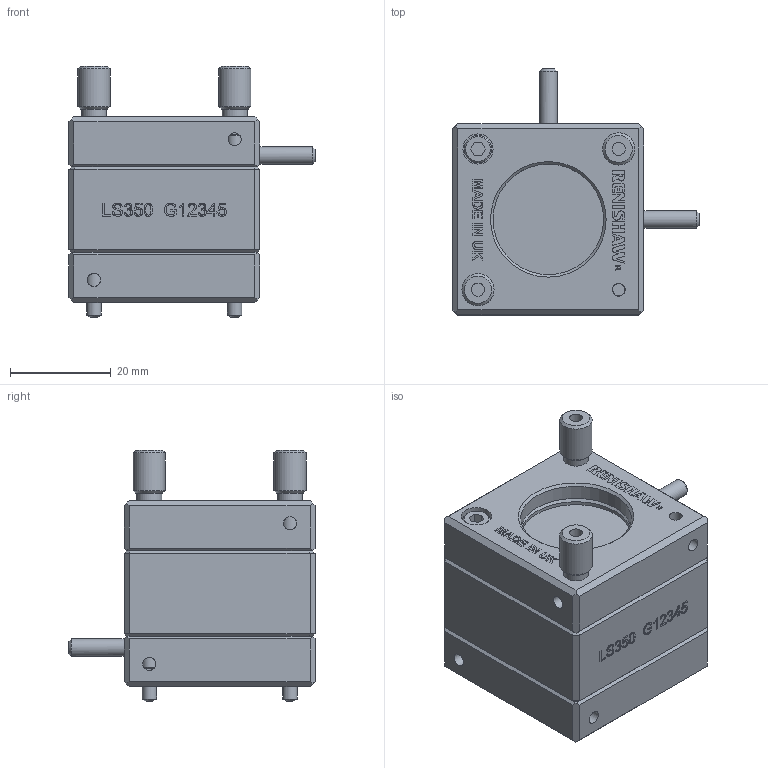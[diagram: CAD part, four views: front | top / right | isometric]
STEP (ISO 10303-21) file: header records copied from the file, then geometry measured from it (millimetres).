
FILE_DESCRIPTION(/* description */ (''),/* implementation_level */ '2;1');
FILE_NAME(/* name */ 'LA_8003_3072_A.stp',/* time_stamp */ '2014-07-16T13:13:14+01:00',/* author */ (''),/* organization */ (''),/* preprocessor_version */ 'ST-DEVELOPER v11',/* originating_system */ 'SIEMENS PLM Software NX 7.5',/* authorisation */ '');
FILE_SCHEMA (('CONFIG_CONTROL_DESIGN'));
Length unit declared in the file: millimetre
Products named in the file (1): ad13562Cszbg
Bounding box: 49 x 49 x 50 mm (x, y, z)
Surface area: 14956.1 mm2
Topology: 1 solids, 2 shells, 590 faces, 1672 edges, 1161 vertices
Faces by surface type: plane 392, extrusion 122, cylinder 46, cone 22, torus 8
Full cylindrical faces by diameter (mm): 0.8 x1, 1.6 x1, 1.886 x1, 2 x1, 2.6 x10, 2.874 x2, 3.5 x2, 5 x2, 5.5 x2, 6 x2, 6.4 x2, 22 x4, 25 x1, 25.35 x1, 27.95 x2, 31.9 x3, 32.4 x1
Entity records: 20067 total; most frequent: CARTESIAN_POINT 5778, ORIENTED_EDGE 3156, DIRECTION 2273, EDGE_CURVE 1578, VERTEX_POINT 1131, VECTOR 1105, LINE 983, EDGE_LOOP 745
